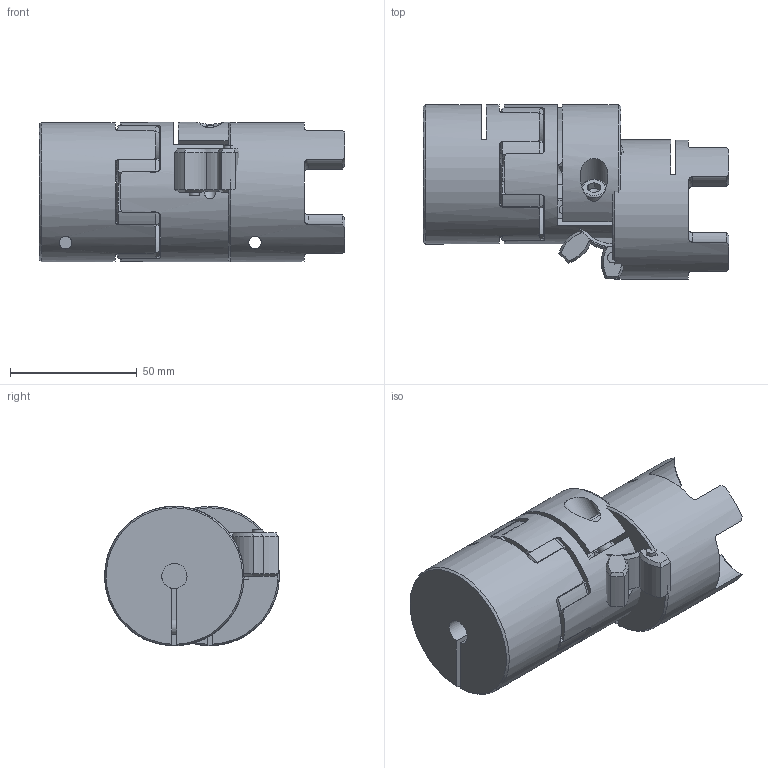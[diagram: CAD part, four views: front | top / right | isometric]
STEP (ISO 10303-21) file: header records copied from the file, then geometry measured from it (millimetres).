
FILE_DESCRIPTION( ( 'Unknown' ), '1' );
FILE_NAME( 'C:/Dokumente und Einstellungen/Sven/Desktop/homepage/cad - homepage/KBE2/KBE2-24.stp', 'Unknown', ( 'Unknown' ), ( 'Unknown' ), 'XStep 1.0', 'Unknown', ' ' );
FILE_SCHEMA( ( 'automotive_design' ) );
Length unit declared in the file: millimetre
Products named in the file (4): Assem1; Socket Head Cap Screw_DIN_DIN 912 M6 x 20 --- 20C; ZK24_Standard; KN24_Standard
Bounding box: 120.75 x 68.9 x 54.99 mm (x, y, z)
Volume: 252958.2 mm3; surface area: 70070.2 mm2
Topology: 8 solids, 8 shells, 473 faces, 1130 edges, 694 vertices
Faces by surface type: cone 177, cylinder 138, plane 128, torus 30
Full cylindrical faces by diameter (mm): 4 x16, 5 x3, 6 x3, 6.5 x3, 10 x6, 11 x3, 27 x4, 32 x3, 55 x3
Entity records: 6198 total; most frequent: CARTESIAN_POINT 1572, DIRECTION 966, ORIENTED_EDGE 870, AXIS2_PLACEMENT_3D 442, EDGE_CURVE 435, VERTEX_POINT 277, EDGE_LOOP 239, CIRCLE 237
